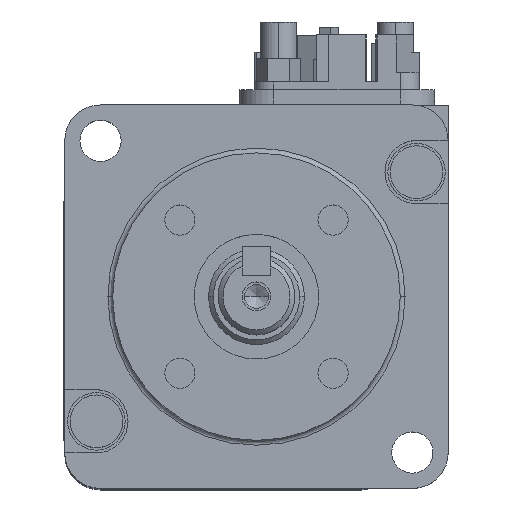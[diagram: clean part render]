
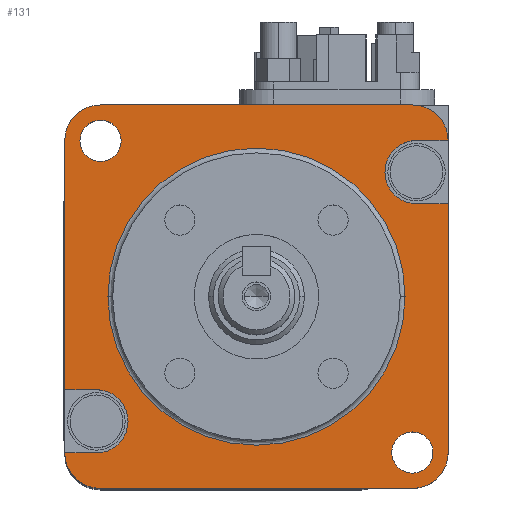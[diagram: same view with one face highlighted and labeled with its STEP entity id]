
A CAD part, top view. The second image highlights one B-rep face of the part: STEP entity #131.
In plain terms, the highlighted planar face has unit normal (0, 0, 1).
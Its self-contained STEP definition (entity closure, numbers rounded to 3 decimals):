
#131=ADVANCED_FACE('',(#683,#684,#685,#686),#682,.T.);
#682=PLANE('',#4429);
#683=FACE_OUTER_BOUND('',#4430,.T.);
#684=FACE_BOUND('',#4431,.T.);
#685=FACE_BOUND('',#4432,.T.);
#686=FACE_BOUND('',#4433,.T.);
#4426=CARTESIAN_POINT('',(-24.,-24.,0.));
#4427=DIRECTION('',(0.,0.,1.));
#4428=DIRECTION('',(1.,0.,0.));
#4429=AXIS2_PLACEMENT_3D('',#4426,#4427,#4428);
#4430=EDGE_LOOP('',(#6450,#6451,#6452,#6453,#6454,#6455,#6456,#6457,#6458,#6459,#6460,#6461,#6462,#6463));
#4431=EDGE_LOOP('',(#6464,#6465));
#4432=EDGE_LOOP('',(#6466,#6467));
#4433=EDGE_LOOP('',(#6468,#6469));
#6450=ORIENTED_EDGE('',*,*,#8405,.F.);
#6451=ORIENTED_EDGE('',*,*,#8406,.T.);
#6452=ORIENTED_EDGE('',*,*,#8407,.T.);
#6453=ORIENTED_EDGE('',*,*,#8408,.T.);
#6454=ORIENTED_EDGE('',*,*,#8409,.T.);
#6455=ORIENTED_EDGE('',*,*,#8410,.T.);
#6456=ORIENTED_EDGE('',*,*,#8411,.F.);
#6457=ORIENTED_EDGE('',*,*,#8412,.F.);
#6458=ORIENTED_EDGE('',*,*,#8413,.T.);
#6459=ORIENTED_EDGE('',*,*,#8414,.T.);
#6460=ORIENTED_EDGE('',*,*,#8415,.T.);
#6461=ORIENTED_EDGE('',*,*,#8416,.T.);
#6462=ORIENTED_EDGE('',*,*,#8417,.T.);
#6463=ORIENTED_EDGE('',*,*,#8418,.F.);
#6464=ORIENTED_EDGE('',*,*,#8419,.T.);
#6465=ORIENTED_EDGE('',*,*,#8420,.T.);
#6466=ORIENTED_EDGE('',*,*,#8421,.T.);
#6467=ORIENTED_EDGE('',*,*,#8422,.T.);
#6468=ORIENTED_EDGE('',*,*,#8423,.T.);
#6469=ORIENTED_EDGE('',*,*,#8424,.T.);
#8405=EDGE_CURVE('',#9750,#9751,#9752,.T.);
#8406=EDGE_CURVE('',#9750,#9758,#9759,.T.);
#8407=EDGE_CURVE('',#9758,#9765,#9766,.T.);
#8408=EDGE_CURVE('',#9765,#9772,#9773,.T.);
#8409=EDGE_CURVE('',#9772,#9779,#9780,.T.);
#8410=EDGE_CURVE('',#9779,#9786,#9787,.T.);
#8411=EDGE_CURVE('',#9793,#9786,#9794,.T.);
#8412=EDGE_CURVE('',#9800,#9793,#9801,.T.);
#8413=EDGE_CURVE('',#9800,#9807,#9808,.T.);
#8414=EDGE_CURVE('',#9807,#9814,#9815,.T.);
#8415=EDGE_CURVE('',#9814,#9821,#9822,.T.);
#8416=EDGE_CURVE('',#9821,#9828,#9829,.T.);
#8417=EDGE_CURVE('',#9828,#9835,#9836,.T.);
#8418=EDGE_CURVE('',#9751,#9835,#9842,.T.);
#8419=EDGE_CURVE('',#9848,#9849,#9850,.T.);
#8420=EDGE_CURVE('',#9849,#9848,#9856,.T.);
#8421=EDGE_CURVE('',#9862,#9863,#9864,.T.);
#8422=EDGE_CURVE('',#9863,#9862,#9870,.T.);
#8423=EDGE_CURVE('',#9876,#9877,#9878,.T.);
#8424=EDGE_CURVE('',#9877,#9876,#9884,.T.);
#9750=VERTEX_POINT('',#16227);
#9751=VERTEX_POINT('',#16228);
#9752=LINE('',#16229,#16230);
#9758=VERTEX_POINT('',#16232);
#9759=CIRCLE('',#16236,3.7);
#9765=VERTEX_POINT('',#16237);
#9766=LINE('',#16238,#16239);
#9772=VERTEX_POINT('',#16241);
#9773=CIRCLE('',#16245,3.7);
#9779=VERTEX_POINT('',#16246);
#9780=LINE('',#16247,#16248);
#9786=VERTEX_POINT('',#16250);
#9787=LINE('',#16251,#16252);
#9793=VERTEX_POINT('',#16254);
#9794=CIRCLE('',#16258,3.3);
#9800=VERTEX_POINT('',#16259);
#9801=LINE('',#16260,#16261);
#9807=VERTEX_POINT('',#16263);
#9808=CIRCLE('',#16267,3.7);
#9814=VERTEX_POINT('',#16268);
#9815=LINE('',#16269,#16270);
#9821=VERTEX_POINT('',#16272);
#9822=CIRCLE('',#16276,3.7);
#9828=VERTEX_POINT('',#16277);
#9829=LINE('',#16278,#16279);
#9835=VERTEX_POINT('',#16281);
#9836=LINE('',#16282,#16283);
#9842=CIRCLE('',#16288,3.3);
#9848=VERTEX_POINT('',#16289);
#9849=VERTEX_POINT('',#16290);
#9850=CIRCLE('',#16294,15.5);
#9856=CIRCLE('',#16298,15.5);
#9862=VERTEX_POINT('',#16299);
#9863=VERTEX_POINT('',#16300);
#9864=CIRCLE('',#16304,2.15);
#9870=CIRCLE('',#16308,2.15);
#9876=VERTEX_POINT('',#16309);
#9877=VERTEX_POINT('',#16310);
#9878=CIRCLE('',#16314,2.15);
#9884=CIRCLE('',#16318,2.15);
#16227=CARTESIAN_POINT('',(20.,16.3,0.));
#16228=CARTESIAN_POINT('',(16.7,16.3,0.));
#16229=CARTESIAN_POINT('',(20.,16.3,0.));
#16230=VECTOR('',#16231,3.3);
#16231=DIRECTION('',(-1.,0.,0.));
#16232=CARTESIAN_POINT('',(16.3,20.,0.));
#16233=CARTESIAN_POINT('',(16.3,16.3,0.));
#16234=DIRECTION('',(0.,0.,1.));
#16235=DIRECTION('',(-1.,0.,0.));
#16236=AXIS2_PLACEMENT_3D('',#16233,#16234,#16235);
#16237=CARTESIAN_POINT('',(-16.3,20.,0.));
#16238=CARTESIAN_POINT('',(16.3,20.,0.));
#16239=VECTOR('',#16240,32.6);
#16240=DIRECTION('',(-1.,0.,0.));
#16241=CARTESIAN_POINT('',(-20.,16.3,0.));
#16242=CARTESIAN_POINT('',(-16.3,16.3,0.));
#16243=DIRECTION('',(0.,0.,1.));
#16244=DIRECTION('',(0.,-1.,0.));
#16245=AXIS2_PLACEMENT_3D('',#16242,#16243,#16244);
#16246=CARTESIAN_POINT('',(-20.,-9.7,0.));
#16247=CARTESIAN_POINT('',(-20.,16.3,0.));
#16248=VECTOR('',#16249,26.);
#16249=DIRECTION('',(0.,-1.,0.));
#16250=CARTESIAN_POINT('',(-16.7,-9.7,0.));
#16251=CARTESIAN_POINT('',(-20.,-9.7,0.));
#16252=VECTOR('',#16253,3.3);
#16253=DIRECTION('',(1.,0.,0.));
#16254=CARTESIAN_POINT('',(-16.7,-16.3,0.));
#16255=CARTESIAN_POINT('',(-16.7,-13.,0.));
#16256=DIRECTION('',(0.,0.,1.));
#16257=DIRECTION('',(-1.,0.,0.));
#16258=AXIS2_PLACEMENT_3D('',#16255,#16256,#16257);
#16259=CARTESIAN_POINT('',(-20.,-16.3,0.));
#16260=CARTESIAN_POINT('',(-20.,-16.3,0.));
#16261=VECTOR('',#16262,3.3);
#16262=DIRECTION('',(1.,0.,0.));
#16263=CARTESIAN_POINT('',(-16.3,-20.,0.));
#16264=CARTESIAN_POINT('',(-16.3,-16.3,0.));
#16265=DIRECTION('',(0.,0.,1.));
#16266=DIRECTION('',(1.,0.,0.));
#16267=AXIS2_PLACEMENT_3D('',#16264,#16265,#16266);
#16268=CARTESIAN_POINT('',(16.3,-20.,0.));
#16269=CARTESIAN_POINT('',(-16.3,-20.,0.));
#16270=VECTOR('',#16271,32.6);
#16271=DIRECTION('',(1.,0.,0.));
#16272=CARTESIAN_POINT('',(20.,-16.3,0.));
#16273=CARTESIAN_POINT('',(16.3,-16.3,0.));
#16274=DIRECTION('',(0.,0.,1.));
#16275=DIRECTION('',(0.,1.,0.));
#16276=AXIS2_PLACEMENT_3D('',#16273,#16274,#16275);
#16277=CARTESIAN_POINT('',(20.,9.7,0.));
#16278=CARTESIAN_POINT('',(20.,-16.3,0.));
#16279=VECTOR('',#16280,26.);
#16280=DIRECTION('',(0.,1.,0.));
#16281=CARTESIAN_POINT('',(16.7,9.7,0.));
#16282=CARTESIAN_POINT('',(20.,9.7,0.));
#16283=VECTOR('',#16284,3.3);
#16284=DIRECTION('',(-1.,0.,0.));
#16285=CARTESIAN_POINT('',(16.7,13.,0.));
#16286=DIRECTION('',(0.,0.,1.));
#16287=DIRECTION('',(0.,1.,0.));
#16288=AXIS2_PLACEMENT_3D('',#16285,#16286,#16287);
#16289=CARTESIAN_POINT('',(15.5,0.,0.));
#16290=CARTESIAN_POINT('',(-15.5,0.,0.));
#16291=CARTESIAN_POINT('',(0.,0.,0.));
#16292=DIRECTION('',(0.,0.,-1.));
#16293=DIRECTION('',(1.,0.,0.));
#16294=AXIS2_PLACEMENT_3D('',#16291,#16292,#16293);
#16295=CARTESIAN_POINT('',(0.,0.,0.));
#16296=DIRECTION('',(0.,0.,-1.));
#16297=DIRECTION('',(1.,0.,0.));
#16298=AXIS2_PLACEMENT_3D('',#16295,#16296,#16297);
#16299=CARTESIAN_POINT('',(18.413,-16.263,0.));
#16300=CARTESIAN_POINT('',(14.113,-16.263,0.));
#16301=CARTESIAN_POINT('',(16.263,-16.263,0.));
#16302=DIRECTION('',(0.,0.,-1.));
#16303=DIRECTION('',(1.,0.,0.));
#16304=AXIS2_PLACEMENT_3D('',#16301,#16302,#16303);
#16305=CARTESIAN_POINT('',(16.263,-16.263,0.));
#16306=DIRECTION('',(0.,0.,-1.));
#16307=DIRECTION('',(1.,0.,0.));
#16308=AXIS2_PLACEMENT_3D('',#16305,#16306,#16307);
#16309=CARTESIAN_POINT('',(-14.113,16.263,0.));
#16310=CARTESIAN_POINT('',(-18.413,16.263,0.));
#16311=CARTESIAN_POINT('',(-16.263,16.263,0.));
#16312=DIRECTION('',(0.,0.,-1.));
#16313=DIRECTION('',(1.,0.,0.));
#16314=AXIS2_PLACEMENT_3D('',#16311,#16312,#16313);
#16315=CARTESIAN_POINT('',(-16.263,16.263,0.));
#16316=DIRECTION('',(0.,0.,-1.));
#16317=DIRECTION('',(1.,0.,0.));
#16318=AXIS2_PLACEMENT_3D('',#16315,#16316,#16317);
